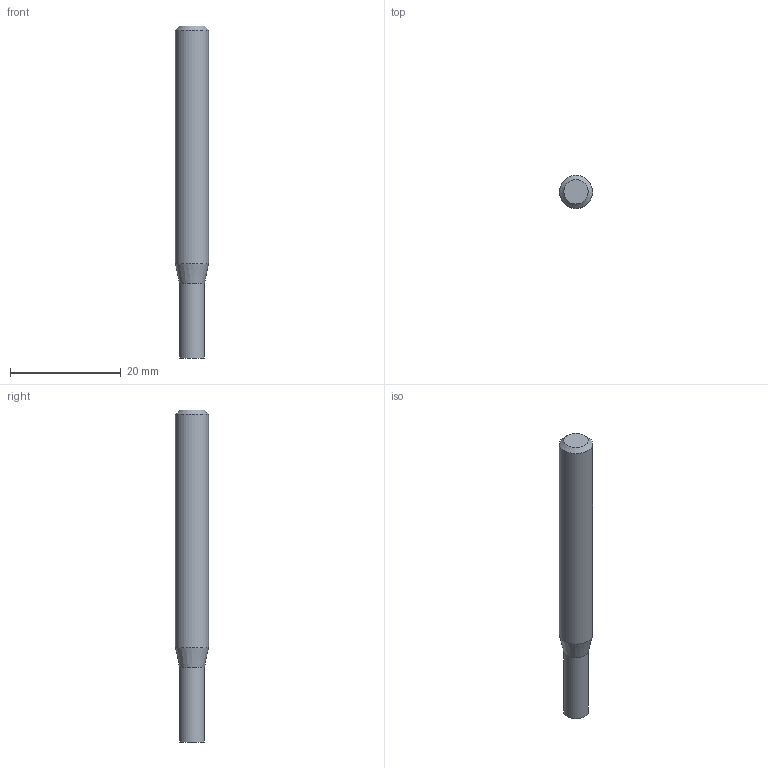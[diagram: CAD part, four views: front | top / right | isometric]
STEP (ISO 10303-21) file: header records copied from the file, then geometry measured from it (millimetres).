
FILE_DESCRIPTION((''),'2;1');
FILE_NAME('C:\Users\nsx150\AppData\Local\Temp\Mastercam 2021\AMKO7YXE3Q\TEMP.step','2024-03-15T17:55:01',(''),(''),'STEP Write','Mastercam 2021 ... CNC Software, Inc.','');
FILE_SCHEMA(('AUTOMOTIVE_DESIGN'));
Length unit declared in the file: millimetre
Products named in the file (1): None
Bounding box: 6 x 6 x 60 mm (x, y, z)
Volume: 1501.1 mm3; surface area: 1126.7 mm2
Topology: 2 solids, 2 shells, 8 faces, 10 edges, 6 vertices
Faces by surface type: plane 4, cylinder 2, cone 2
Full cylindrical faces by diameter (mm): 4.5 x1, 6 x1
Entity records: 190 total; most frequent: DIRECTION 32, CARTESIAN_POINT 22, AXIS2_PLACEMENT_3D 16, ORIENTED_EDGE 12, EDGE_LOOP 12, STYLED_ITEM 11, ADVANCED_FACE 8, VERTEX_POINT 6
